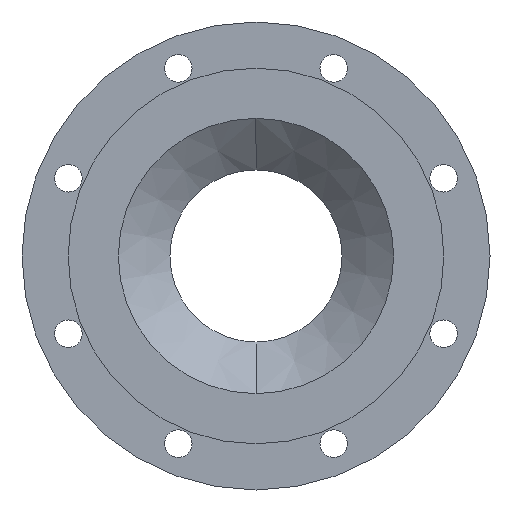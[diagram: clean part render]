
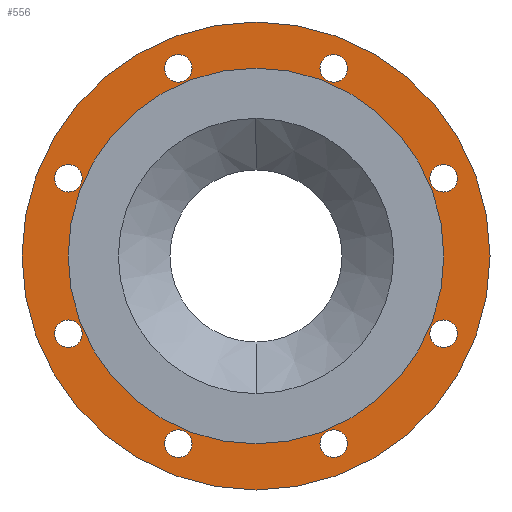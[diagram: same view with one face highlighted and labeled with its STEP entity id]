
A CAD part, left-side view. The second image highlights one B-rep face of the part: STEP entity #556.
In plain terms, the highlighted planar face has unit normal (-1, 0, 0).
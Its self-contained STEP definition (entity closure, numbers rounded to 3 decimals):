
#556=ADVANCED_FACE('',(#1027,#1028,#1029,#1030,#1031,#1032,#1033,#1034,#1035,#1036),#1037,.F.);
#1027=FACE_BOUND('',#1541,.T.);
#1028=FACE_BOUND('',#1542,.T.);
#1029=FACE_BOUND('',#1543,.T.);
#1030=FACE_BOUND('',#1544,.T.);
#1031=FACE_BOUND('',#1545,.T.);
#1032=FACE_BOUND('',#1546,.T.);
#1033=FACE_BOUND('',#1547,.T.);
#1034=FACE_BOUND('',#1548,.T.);
#1035=FACE_BOUND('',#1549,.T.);
#1036=FACE_OUTER_BOUND('',#1550,.T.);
#1037=PLANE('',#1551);
#1541=EDGE_LOOP('',(#2478,#2479));
#1542=EDGE_LOOP('',(#2480,#2481));
#1543=EDGE_LOOP('',(#2482,#2483));
#1544=EDGE_LOOP('',(#2484,#2485));
#1545=EDGE_LOOP('',(#2486,#2487));
#1546=EDGE_LOOP('',(#2488,#2489));
#1547=EDGE_LOOP('',(#2490,#2491));
#1548=EDGE_LOOP('',(#2492,#2493));
#1549=EDGE_LOOP('',(#2494,#2495));
#1550=EDGE_LOOP('',(#2496,#2497));
#1551=AXIS2_PLACEMENT_3D('',#2498,#2499,#2500);
#2478=ORIENTED_EDGE('',*,*,#2954,.T.);
#2479=ORIENTED_EDGE('',*,*,#3068,.T.);
#2480=ORIENTED_EDGE('',*,*,#2936,.T.);
#2481=ORIENTED_EDGE('',*,*,#2809,.T.);
#2482=ORIENTED_EDGE('',*,*,#2737,.T.);
#2483=ORIENTED_EDGE('',*,*,#3039,.T.);
#2484=ORIENTED_EDGE('',*,*,#2897,.T.);
#2485=ORIENTED_EDGE('',*,*,#3069,.T.);
#2486=ORIENTED_EDGE('',*,*,#2722,.T.);
#2487=ORIENTED_EDGE('',*,*,#3070,.T.);
#2488=ORIENTED_EDGE('',*,*,#2732,.T.);
#2489=ORIENTED_EDGE('',*,*,#3071,.T.);
#2490=ORIENTED_EDGE('',*,*,#2780,.T.);
#2491=ORIENTED_EDGE('',*,*,#2826,.T.);
#2492=ORIENTED_EDGE('',*,*,#3072,.T.);
#2493=ORIENTED_EDGE('',*,*,#3073,.T.);
#2494=ORIENTED_EDGE('',*,*,#2892,.T.);
#2495=ORIENTED_EDGE('',*,*,#3010,.T.);
#2496=ORIENTED_EDGE('',*,*,#2965,.F.);
#2497=ORIENTED_EDGE('',*,*,#3008,.F.);
#2498=CARTESIAN_POINT('',(1.0,0.0,0.));
#2499=DIRECTION('',(1.0,0.0,0.));
#2500=DIRECTION('',(0.,0.0,-1.0));
#2722=EDGE_CURVE('',#3153,#3157,#3159,.T.);
#2732=EDGE_CURVE('',#3169,#3173,#3175,.T.);
#2737=EDGE_CURVE('',#3178,#3182,#3184,.T.);
#2780=EDGE_CURVE('',#3249,#3253,#3255,.T.);
#2809=EDGE_CURVE('',#3302,#3300,#3303,.T.);
#2826=EDGE_CURVE('',#3253,#3249,#3329,.T.);
#2892=EDGE_CURVE('',#3426,#3430,#3432,.T.);
#2897=EDGE_CURVE('',#3435,#3439,#3441,.T.);
#2936=EDGE_CURVE('',#3300,#3302,#3496,.T.);
#2954=EDGE_CURVE('',#3517,#3521,#3523,.T.);
#2965=EDGE_CURVE('',#3537,#3540,#3541,.T.);
#3008=EDGE_CURVE('',#3540,#3537,#3589,.T.);
#3010=EDGE_CURVE('',#3430,#3426,#3591,.T.);
#3039=EDGE_CURVE('',#3182,#3178,#3624,.T.);
#3068=EDGE_CURVE('',#3521,#3517,#3661,.T.);
#3069=EDGE_CURVE('',#3439,#3435,#3662,.T.);
#3070=EDGE_CURVE('',#3157,#3153,#3663,.T.);
#3071=EDGE_CURVE('',#3173,#3169,#3664,.T.);
#3072=EDGE_CURVE('',#3665,#3666,#3667,.T.);
#3073=EDGE_CURVE('',#3666,#3665,#3668,.T.);
#3153=VERTEX_POINT('',#3766);
#3157=VERTEX_POINT('',#3771);
#3159=CIRCLE('',#3774,10.0);
#3169=VERTEX_POINT('',#3787);
#3173=VERTEX_POINT('',#3792);
#3175=CIRCLE('',#3795,10.0);
#3178=VERTEX_POINT('',#3798);
#3182=VERTEX_POINT('',#3803);
#3184=CIRCLE('',#3806,10.0);
#3249=VERTEX_POINT('',#3889);
#3253=VERTEX_POINT('',#3894);
#3255=CIRCLE('',#3897,10.0);
#3300=VERTEX_POINT('',#3955);
#3302=VERTEX_POINT('',#3958);
#3303=CIRCLE('',#3959,10.0);
#3329=CIRCLE('',#3994,10.0);
#3426=VERTEX_POINT('',#4126);
#3430=VERTEX_POINT('',#4131);
#3432=CIRCLE('',#4134,136.5);
#3435=VERTEX_POINT('',#4137);
#3439=VERTEX_POINT('',#4142);
#3441=CIRCLE('',#4145,10.0);
#3496=CIRCLE('',#4220,10.0);
#3517=VERTEX_POINT('',#4246);
#3521=VERTEX_POINT('',#4251);
#3523=CIRCLE('',#4254,10.0);
#3537=VERTEX_POINT('',#4272);
#3540=VERTEX_POINT('',#4276);
#3541=CIRCLE('',#4277,170.0);
#3589=CIRCLE('',#4339,170.0);
#3591=CIRCLE('',#4341,136.5);
#3624=CIRCLE('',#4387,10.0);
#3661=CIRCLE('',#4436,10.0);
#3662=CIRCLE('',#4437,10.0);
#3663=CIRCLE('',#4438,10.0);
#3664=CIRCLE('',#4439,10.0);
#3665=VERTEX_POINT('',#4440);
#3666=VERTEX_POINT('',#4441);
#3667=CIRCLE('',#4442,10.0);
#3668=CIRCLE('',#4443,10.0);
#3766=CARTESIAN_POINT('',(1.0,136.272,46.446));
#3771=CARTESIAN_POINT('',(1.,136.272,66.446));
#3774=AXIS2_PLACEMENT_3D('',#4508,#4509,#4510);
#3787=CARTESIAN_POINT('',(1.0,56.446,126.272));
#3792=CARTESIAN_POINT('',(1.,56.446,146.272));
#3795=AXIS2_PLACEMENT_3D('',#4519,#4520,#4521);
#3798=CARTESIAN_POINT('',(1.0,-136.272,46.446));
#3803=CARTESIAN_POINT('',(1.,-136.272,66.446));
#3806=AXIS2_PLACEMENT_3D('',#4527,#4528,#4529);
#3889=CARTESIAN_POINT('',(1.0,-136.272,-66.446));
#3894=CARTESIAN_POINT('',(1.0,-136.272,-46.446));
#3897=AXIS2_PLACEMENT_3D('',#4580,#4581,#4582);
#3955=CARTESIAN_POINT('',(1.0,56.446,-146.272));
#3958=CARTESIAN_POINT('',(1.,56.446,-126.272));
#3959=AXIS2_PLACEMENT_3D('',#4612,#4613,#4614);
#3994=AXIS2_PLACEMENT_3D('',#4633,#4634,#4635);
#4126=CARTESIAN_POINT('',(1.,0.0,-136.5));
#4131=CARTESIAN_POINT('',(1.,0.,136.5));
#4134=AXIS2_PLACEMENT_3D('',#4703,#4704,#4705);
#4137=CARTESIAN_POINT('',(1.0,-56.446,126.272));
#4142=CARTESIAN_POINT('',(1.,-56.446,146.272));
#4145=AXIS2_PLACEMENT_3D('',#4711,#4712,#4713);
#4220=AXIS2_PLACEMENT_3D('',#4755,#4756,#4757);
#4246=CARTESIAN_POINT('',(1.0,136.272,-66.446));
#4251=CARTESIAN_POINT('',(1.0,136.272,-46.446));
#4254=AXIS2_PLACEMENT_3D('',#4777,#4778,#4779);
#4272=CARTESIAN_POINT('',(1.,0.0,-170.0));
#4276=CARTESIAN_POINT('',(1.,0.,170.0));
#4277=AXIS2_PLACEMENT_3D('',#4791,#4792,#4793);
#4339=AXIS2_PLACEMENT_3D('',#4847,#4848,#4849);
#4341=AXIS2_PLACEMENT_3D('',#4850,#4851,#4852);
#4387=AXIS2_PLACEMENT_3D('',#4875,#4876,#4877);
#4436=AXIS2_PLACEMENT_3D('',#4893,#4894,#4895);
#4437=AXIS2_PLACEMENT_3D('',#4896,#4897,#4898);
#4438=AXIS2_PLACEMENT_3D('',#4899,#4900,#4901);
#4439=AXIS2_PLACEMENT_3D('',#4902,#4903,#4904);
#4440=CARTESIAN_POINT('',(1.0,-56.446,-146.272));
#4441=CARTESIAN_POINT('',(1.,-56.446,-126.272));
#4442=AXIS2_PLACEMENT_3D('',#4905,#4906,#4907);
#4443=AXIS2_PLACEMENT_3D('',#4908,#4909,#4910);
#4508=CARTESIAN_POINT('',(1.,136.272,56.446));
#4509=DIRECTION('',(1.0,0.0,0.));
#4510=DIRECTION('',(0.,0.0,-1.0));
#4519=CARTESIAN_POINT('',(1.,56.446,136.272));
#4520=DIRECTION('',(1.0,0.0,0.));
#4521=DIRECTION('',(0.,0.0,-1.0));
#4527=CARTESIAN_POINT('',(1.,-136.272,56.446));
#4528=DIRECTION('',(1.0,0.0,0.));
#4529=DIRECTION('',(0.,0.0,-1.0));
#4580=CARTESIAN_POINT('',(1.0,-136.272,-56.446));
#4581=DIRECTION('',(1.0,0.0,0.));
#4582=DIRECTION('',(0.,0.0,-1.0));
#4612=CARTESIAN_POINT('',(1.,56.446,-136.272));
#4613=DIRECTION('',(1.0,0.0,0.));
#4614=DIRECTION('',(0.,0.0,-1.0));
#4633=CARTESIAN_POINT('',(1.0,-136.272,-56.446));
#4634=DIRECTION('',(1.0,0.0,0.));
#4635=DIRECTION('',(0.,0.0,-1.0));
#4703=CARTESIAN_POINT('',(1.0,0.0,0.));
#4704=DIRECTION('',(1.0,0.0,0.));
#4705=DIRECTION('',(0.,0.0,-1.0));
#4711=CARTESIAN_POINT('',(1.,-56.446,136.272));
#4712=DIRECTION('',(1.0,0.0,0.));
#4713=DIRECTION('',(0.,0.0,-1.0));
#4755=CARTESIAN_POINT('',(1.,56.446,-136.272));
#4756=DIRECTION('',(1.0,0.0,0.));
#4757=DIRECTION('',(0.,0.0,-1.0));
#4777=CARTESIAN_POINT('',(1.0,136.272,-56.446));
#4778=DIRECTION('',(1.0,0.0,0.));
#4779=DIRECTION('',(0.,0.0,-1.0));
#4791=CARTESIAN_POINT('',(1.0,0.0,0.));
#4792=DIRECTION('',(1.0,0.0,0.));
#4793=DIRECTION('',(0.,0.0,-1.0));
#4847=CARTESIAN_POINT('',(1.0,0.0,0.));
#4848=DIRECTION('',(1.0,0.0,0.));
#4849=DIRECTION('',(0.,0.0,-1.0));
#4850=CARTESIAN_POINT('',(1.0,0.0,0.));
#4851=DIRECTION('',(1.0,0.0,0.));
#4852=DIRECTION('',(0.,0.0,-1.0));
#4875=CARTESIAN_POINT('',(1.,-136.272,56.446));
#4876=DIRECTION('',(1.0,0.0,0.));
#4877=DIRECTION('',(0.,0.0,-1.0));
#4893=CARTESIAN_POINT('',(1.0,136.272,-56.446));
#4894=DIRECTION('',(1.0,0.0,0.));
#4895=DIRECTION('',(0.,0.0,-1.0));
#4896=CARTESIAN_POINT('',(1.,-56.446,136.272));
#4897=DIRECTION('',(1.0,0.0,0.));
#4898=DIRECTION('',(0.,0.0,-1.0));
#4899=CARTESIAN_POINT('',(1.,136.272,56.446));
#4900=DIRECTION('',(1.0,0.0,0.));
#4901=DIRECTION('',(0.,0.0,-1.0));
#4902=CARTESIAN_POINT('',(1.,56.446,136.272));
#4903=DIRECTION('',(1.0,0.0,0.));
#4904=DIRECTION('',(0.,0.0,-1.0));
#4905=CARTESIAN_POINT('',(1.,-56.446,-136.272));
#4906=DIRECTION('',(1.0,0.0,0.));
#4907=DIRECTION('',(0.,0.0,-1.0));
#4908=CARTESIAN_POINT('',(1.,-56.446,-136.272));
#4909=DIRECTION('',(1.0,0.0,0.));
#4910=DIRECTION('',(0.,0.0,-1.0));
